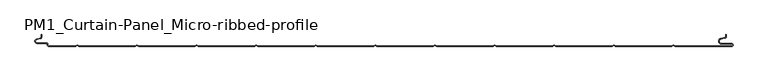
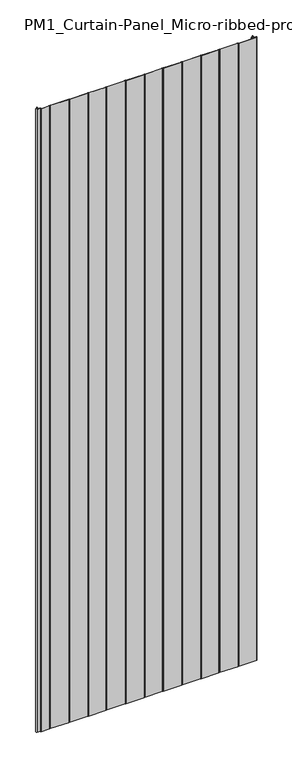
"""IFC4 building model written with IfcOpenShell, lengths in millimetres: plate geometry, PM1_Curtain-Panel_Micro-ribbed-profile : ACH_PM1_Acoustic-Sectioning-Panel_120M."""

from ifc_helpers import new_model, si_unit, frame, origin, place, context, project, spatial, polyline, circle_curve, source, transform, mapped, element, save
from ifc_brep_helpers import plane_surface, cylinder_surface, revolved_surface, advanced_brep


def pm1_curtain_panel_micro_ribbed_profile_e0073b67(model_context):
    return source(origin(), model_context, "Body", "AdvancedBrep", [
        advanced_brep(
        [(-575.0, -104.121443, 3500.0), (-576.5500978, -106.0701831, 3500.0), (-582.7098239, -107.492268, 3500.0), (-581.9, -114.6, 3500.0), (-566.4, -114.6, 3500.0), (-564.4, -116.6, 3500.0), (-564.4, -118.0, 3500.0), (-562.4, -120.0, 3500.0), (-517.0999995, -120.0, 3500.0), (-514.4, -118.4411545, 3500.0), (-511.7000005, -120.0, 3500.0), (-417.0999995, -120.0, 3500.0), (-414.4, -118.4411545, 3500.0), (-411.7000005, -120.0, 3500.0), (-317.0999995, -120.0, 3500.0), (-314.4, -118.4411545, 3500.0), (-311.7000005, -120.0, 3500.0), (-217.0999995, -120.0, 3500.0), (-214.4, -118.4411545, 3500.0), (-211.7000005, -120.0, 3500.0), (-117.0999995, -120.0, 3500.0), (-114.4, -118.4411545, 3500.0), (-111.7000005, -120.0, 3500.0), (-17.0999995, -120.0, 3500.0), (-14.4, -118.4411545, 3500.0), (-11.7000005, -120.0, 3500.0), (82.9000005, -120.0, 3500.0), (85.6, -118.4411545, 3500.0), (88.2999995, -120.0, 3500.0), (182.9000005, -120.0, 3500.0), (185.6, -118.4411545, 3500.0), (188.2999995, -120.0, 3500.0), (282.9000005, -120.0, 3500.0), (285.6, -118.4411545, 3500.0), (288.2999995, -120.0, 3500.0), (382.9000005, -120.0, 3500.0), (385.6, -118.4411545, 3500.0), (388.2999995, -120.0, 3500.0), (482.9000005, -120.0, 3500.0), (485.6, -118.4411545, 3500.0), (488.2999995, -120.0, 3500.0), (583.1, -120.0, 3500.0), (585.6, -117.5, 3500.0), (583.1, -115.0, 3500.0), (566.1, -115.0, 3500.0), (565.405407, -107.060769, 3500.0), (571.8514855, -105.9241509, 3500.0), (574.0, -103.3636508, 3500.0), (574.0, -100.0, 3500.0), (573.2, -100.0, 3500.0), (573.2, -103.3636508, 3500.0), (571.7125669, -105.1363047, 3500.0), (565.2664884, -106.2729228, 3500.0), (566.1, -115.8, 3500.0), (583.1, -115.8, 3500.0), (583.1, -119.2, 3500.0), (488.5143588, -119.2, 3500.0), (485.6, -117.517394, 3500.0), (482.6856412, -119.2, 3500.0), (388.5143588, -119.2, 3500.0), (385.6, -117.517394, 3500.0), (382.6856412, -119.2, 3500.0), (288.5143588, -119.2, 3500.0), (285.6, -117.517394, 3500.0), (282.6856412, -119.2, 3500.0), (188.5143588, -119.2, 3500.0), (185.6, -117.517394, 3500.0), (182.6856412, -119.2, 3500.0), (88.5143588, -119.2, 3500.0), (85.6, -117.517394, 3500.0), (82.6856412, -119.2, 3500.0), (-11.4856412, -119.2, 3500.0), (-14.4, -117.517394, 3500.0), (-17.3143588, -119.2, 3500.0), (-111.4856412, -119.2, 3500.0), (-114.4, -117.517394, 3500.0), (-117.3143588, -119.2, 3500.0), (-211.4856412, -119.2, 3500.0), (-214.4, -117.517394, 3500.0), (-217.3143588, -119.2, 3500.0), (-311.4856412, -119.2, 3500.0), (-314.4, -117.517394, 3500.0), (-317.3143588, -119.2, 3500.0), (-411.4856412, -119.2, 3500.0), (-414.4, -117.517394, 3500.0), (-417.3143588, -119.2, 3500.0), (-511.4856412, -119.2, 3500.0), (-514.4, -117.517394, 3500.0), (-517.3143588, -119.2, 3500.0), (-562.4, -119.2, 3500.0), (-563.6, -118.0, 3500.0), (-563.6, -116.6, 3500.0), (-566.4, -113.8, 3500.0), (-581.9, -113.8, 3500.0), (-582.529863, -108.2717638, 3500.0), (-576.370137, -106.849679, 3500.0), (-574.2, -104.121443, 3500.0), (-574.2, -100.0, 3500.0), (-575.0, -100.0, 3500.0), (-575.0, -104.121443, 0.0), (-575.0, -100.0, 0.0), (-574.2, -100.0, 0.0), (-574.2, -104.121443, 0.0), (-576.370137, -106.8496792, 0.0), (-582.529863, -108.271764, 0.0), (-581.9, -113.8, 0.0), (-566.4, -113.8, 0.0), (-563.6, -116.6, 0.0), (-563.6, -118.0, 0.0), (-562.4, -119.2, 0.0), (-517.3143588, -119.2, 0.0), (-514.4, -117.517394, 0.0), (-511.4856412, -119.2, 0.0), (-417.3143588, -119.2, 0.0), (-414.4, -117.517394, 0.0), (-411.4856412, -119.2, 0.0), (-317.3143588, -119.2, 0.0), (-314.4, -117.517394, 0.0), (-311.4856412, -119.2, 0.0), (-217.3143588, -119.2, 0.0), (-214.4, -117.517394, 0.0), (-211.4856412, -119.2, 0.0), (-117.3143588, -119.2, 0.0), (-114.4, -117.517394, 0.0), (-111.4856412, -119.2, 0.0), (-17.3143588, -119.2, 0.0), (-14.4, -117.517394, 0.0), (-11.4856412, -119.2, 0.0), (82.6856412, -119.2, 0.0), (85.6, -117.517394, 0.0), (88.5143588, -119.2, 0.0), (182.6856412, -119.2, 0.0), (185.6, -117.517394, 0.0), (188.5143588, -119.2, 0.0), (282.6856412, -119.2, 0.0), (285.6, -117.517394, 0.0), (288.5143588, -119.2, 0.0), (382.6856412, -119.2, 0.0), (385.6, -117.517394, 0.0), (388.5143588, -119.2, 0.0), (482.6856412, -119.2, 0.0), (485.6, -117.517394, 0.0), (488.5143588, -119.2, 0.0), (583.1, -119.2, 0.0), (583.1, -115.8, 0.0), (566.1, -115.8, 0.0), (565.2664884, -106.2729229, 0.0), (571.7125669, -105.1363047, 0.0), (573.2, -103.3636508, 0.0), (573.2, -100.0, 0.0), (574.0, -100.0, 0.0), (574.0, -103.3636508, 0.0), (571.8514855, -105.9241509, 0.0), (565.405407, -107.060769, 0.0), (566.1, -115.0, 0.0), (583.1, -115.0, 0.0), (585.6, -117.5, 0.0), (583.1, -120.0, 0.0), (488.2999995, -120.0, 0.0), (485.6, -118.4411545, 0.0), (482.9000005, -120.0, 0.0), (388.2999995, -120.0, 0.0), (385.6, -118.4411545, 0.0), (382.9000005, -120.0, 0.0), (288.2999995, -120.0, 0.0), (285.6, -118.4411545, 0.0), (282.9000005, -120.0, 0.0), (188.2999995, -120.0, 0.0), (185.6, -118.4411545, 0.0), (182.9000005, -120.0, 0.0), (88.2999995, -120.0, 0.0), (85.6, -118.4411545, 0.0), (82.9000005, -120.0, 0.0), (-11.7000005, -120.0, 0.0), (-14.4, -118.4411545, 0.0), (-17.0999995, -120.0, 0.0), (-111.7000005, -120.0, 0.0), (-114.4, -118.4411545, 0.0), (-117.0999995, -120.0, 0.0), (-211.7000005, -120.0, 0.0), (-214.4, -118.4411545, 0.0), (-217.0999995, -120.0, 0.0), (-311.7000005, -120.0, 0.0), (-314.4, -118.4411545, 0.0), (-317.0999995, -120.0, 0.0), (-411.7000005, -120.0, 0.0), (-414.4, -118.4411545, 0.0), (-417.0999995, -120.0, 0.0), (-511.7000005, -120.0, 0.0), (-514.4, -118.4411545, 0.0), (-517.0999995, -120.0, 0.0), (-562.4, -120.0, 0.0), (-564.4, -118.0, 0.0), (-564.4, -116.6, 0.0), (-566.4, -114.6, 0.0), (-581.9, -114.6, 0.0), (-582.7098239, -107.4922678, 0.0), (-576.5500979, -106.070183, 0.0)],
        [
            (0, 1, circle_curve(frame((-577.0, -104.121443, 3500.0), z_axis=(0.0, 0.0, -1.0), x_axis=(1.0, 0.0, 0.0)), 2.0)),
            (1, 2),
            (2, 3, circle_curve(frame((-581.9, -111.0, 3500.0), z_axis=(0.0, 0.0, 1.0), x_axis=(1.0, 0.0, 0.0)), 3.6)),
            (3, 4),
            (4, 5, circle_curve(frame((-566.4, -116.6, 3500.0), z_axis=(0.0, 0.0, -1.0), x_axis=(1.0, 0.0, 0.0)), 2.0)),
            (5, 6),
            (6, 7, circle_curve(frame((-562.4, -118.0, 3500.0), z_axis=(0.0, 0.0, 1.0), x_axis=(1.0, 0.0, 0.0)), 2.0)),
            (7, 8),
            (8, 9),
            (9, 10),
            (10, 11),
            (11, 12),
            (12, 13),
            (13, 14),
            (14, 15),
            (15, 16),
            (16, 17),
            (17, 18),
            (18, 19),
            (19, 20),
            (20, 21),
            (21, 22),
            (22, 23),
            (23, 24),
            (24, 25),
            (25, 26),
            (26, 27),
            (27, 28),
            (28, 29),
            (29, 30),
            (30, 31),
            (31, 32),
            (32, 33),
            (33, 34),
            (34, 35),
            (35, 36),
            (36, 37),
            (37, 38),
            (38, 39),
            (39, 40),
            (40, 41),
            (41, 42, circle_curve(frame((583.1, -117.5, 3500.0), z_axis=(0.0, 0.0, 1.0), x_axis=(1.0, 0.0, 0.0)), 2.5)),
            (42, 43, circle_curve(frame((583.1, -117.5, 3500.0), z_axis=(0.0, 0.0, 1.0), x_axis=(1.0, 0.0, 0.0)), 2.5)),
            (43, 44),
            (44, 45, circle_curve(frame((566.1, -111.0, 3500.0), z_axis=(0.0, 0.0, -1.0), x_axis=(1.0, 0.0, 0.0)), 4.0)),
            (45, 46),
            (46, 47, circle_curve(frame((571.4, -103.3636508, 3500.0), z_axis=(0.0, 0.0, 1.0), x_axis=(1.0, 0.0, 0.0)), 2.6)),
            (47, 48),
            (48, 49),
            (49, 50),
            (50, 51, circle_curve(frame((571.4, -103.3636508, 3500.0), z_axis=(0.0, 0.0, -1.0), x_axis=(1.0, 0.0, 0.0)), 1.8)),
            (51, 52),
            (52, 53, circle_curve(frame((566.1, -111.0, 3500.0), z_axis=(0.0, 0.0, 1.0), x_axis=(1.0, 0.0, 0.0)), 4.8)),
            (53, 54),
            (54, 55, circle_curve(frame((583.1, -117.5, 3500.0), z_axis=(0.0, 0.0, -1.0), x_axis=(1.0, 0.0, 0.0)), 1.7)),
            (55, 56),
            (56, 57),
            (57, 58),
            (58, 59),
            (59, 60),
            (60, 61),
            (61, 62),
            (62, 63),
            (63, 64),
            (64, 65),
            (65, 66),
            (66, 67),
            (67, 68),
            (68, 69),
            (69, 70),
            (70, 71),
            (71, 72),
            (72, 73),
            (73, 74),
            (74, 75),
            (75, 76),
            (76, 77),
            (77, 78),
            (78, 79),
            (79, 80),
            (80, 81),
            (81, 82),
            (82, 83),
            (83, 84),
            (84, 85),
            (85, 86),
            (86, 87),
            (87, 88),
            (88, 89),
            (89, 90, circle_curve(frame((-562.4, -118.0, 3500.0), z_axis=(0.0, 0.0, -1.0), x_axis=(1.0, 0.0, 0.0)), 1.2)),
            (90, 91),
            (91, 92, circle_curve(frame((-566.4, -116.6, 3500.0), z_axis=(0.0, 0.0, 1.0), x_axis=(1.0, 0.0, 0.0)), 2.8)),
            (92, 93),
            (93, 94, circle_curve(frame((-581.9, -111.0, 3500.0), z_axis=(0.0, 0.0, -1.0), x_axis=(1.0, 0.0, 0.0)), 2.8)),
            (94, 95),
            (95, 96, circle_curve(frame((-577.0, -104.121443, 3500.0), z_axis=(0.0, 0.0, 1.0), x_axis=(1.0, 0.0, 0.0)), 2.8)),
            (96, 97),
            (97, 98),
            (98, 0),
            (99, 100),
            (100, 101),
            (101, 102),
            (102, 103, circle_curve(frame((-577.0, -104.121443, 0.0), z_axis=(0.0, 0.0, -1.0), x_axis=(1.0, 0.0, 0.0)), 2.8)),
            (103, 104),
            (104, 105, circle_curve(frame((-581.9, -111.0, 0.0), z_axis=(0.0, 0.0, 1.0), x_axis=(1.0, 0.0, 0.0)), 2.8)),
            (105, 106),
            (106, 107, circle_curve(frame((-566.4, -116.6, 0.0), z_axis=(0.0, 0.0, -1.0), x_axis=(1.0, 0.0, 0.0)), 2.8)),
            (107, 108),
            (108, 109, circle_curve(frame((-562.4, -118.0, 0.0), z_axis=(0.0, 0.0, 1.0), x_axis=(1.0, 0.0, 0.0)), 1.2)),
            (109, 110),
            (110, 111),
            (111, 112),
            (112, 113),
            (113, 114),
            (114, 115),
            (115, 116),
            (116, 117),
            (117, 118),
            (118, 119),
            (119, 120),
            (120, 121),
            (121, 122),
            (122, 123),
            (123, 124),
            (124, 125),
            (125, 126),
            (126, 127),
            (127, 128),
            (128, 129),
            (129, 130),
            (130, 131),
            (131, 132),
            (132, 133),
            (133, 134),
            (134, 135),
            (135, 136),
            (136, 137),
            (137, 138),
            (138, 139),
            (139, 140),
            (140, 141),
            (141, 142),
            (142, 143),
            (143, 144, circle_curve(frame((583.1, -117.5, 0.0), z_axis=(0.0, 0.0, 1.0), x_axis=(1.0, 0.0, 0.0)), 1.7)),
            (144, 145),
            (145, 146, circle_curve(frame((566.1, -111.0, 0.0), z_axis=(0.0, 0.0, -1.0), x_axis=(1.0, 0.0, 0.0)), 4.8)),
            (146, 147),
            (147, 148, circle_curve(frame((571.4, -103.3636508, 0.0), z_axis=(0.0, 0.0, 1.0), x_axis=(1.0, 0.0, 0.0)), 1.8)),
            (148, 149),
            (149, 150),
            (150, 151),
            (151, 152, circle_curve(frame((571.4, -103.3636508, 0.0), z_axis=(0.0, 0.0, -1.0), x_axis=(1.0, 0.0, 0.0)), 2.6)),
            (152, 153),
            (153, 154, circle_curve(frame((566.1, -111.0, 0.0), z_axis=(0.0, 0.0, 1.0), x_axis=(1.0, 0.0, 0.0)), 4.0)),
            (154, 155),
            (155, 156, circle_curve(frame((583.1, -117.5, 0.0), z_axis=(0.0, 0.0, -1.0), x_axis=(1.0, 0.0, 0.0)), 2.5)),
            (156, 157, circle_curve(frame((583.1, -117.5, 0.0), z_axis=(0.0, 0.0, -1.0), x_axis=(1.0, 0.0, 0.0)), 2.5)),
            (157, 158),
            (158, 159),
            (159, 160),
            (160, 161),
            (161, 162),
            (162, 163),
            (163, 164),
            (164, 165),
            (165, 166),
            (166, 167),
            (167, 168),
            (168, 169),
            (169, 170),
            (170, 171),
            (171, 172),
            (172, 173),
            (173, 174),
            (174, 175),
            (175, 176),
            (176, 177),
            (177, 178),
            (178, 179),
            (179, 180),
            (180, 181),
            (181, 182),
            (182, 183),
            (183, 184),
            (184, 185),
            (185, 186),
            (186, 187),
            (187, 188),
            (188, 189),
            (189, 190),
            (190, 191),
            (191, 192, circle_curve(frame((-562.4, -118.0, 0.0), z_axis=(0.0, 0.0, -1.0), x_axis=(1.0, 0.0, 0.0)), 2.0)),
            (192, 193),
            (193, 194, circle_curve(frame((-566.4, -116.6, 0.0), z_axis=(0.0, 0.0, 1.0), x_axis=(1.0, 0.0, 0.0)), 2.0)),
            (194, 195),
            (195, 196, circle_curve(frame((-581.9, -111.0, 0.0), z_axis=(0.0, 0.0, -1.0), x_axis=(1.0, 0.0, 0.0)), 3.6)),
            (196, 197),
            (197, 99, circle_curve(frame((-577.0, -104.121443, 0.0), z_axis=(0.0, 0.0, 1.0), x_axis=(1.0, 0.0, 0.0)), 2.0)),
            (0, 99),
            (197, 1),
            (196, 2),
            (195, 3),
            (194, 4),
            (193, 5),
            (192, 6),
            (191, 7),
            (190, 8),
            (189, 9),
            (188, 10),
            (187, 11),
            (186, 12),
            (185, 13),
            (184, 14),
            (183, 15),
            (182, 16),
            (181, 17),
            (180, 18),
            (179, 19),
            (178, 20),
            (177, 21),
            (176, 22),
            (175, 23),
            (174, 24),
            (173, 25),
            (172, 26),
            (171, 27),
            (170, 28),
            (169, 29),
            (168, 30),
            (167, 31),
            (166, 32),
            (165, 33),
            (164, 34),
            (163, 35),
            (162, 36),
            (161, 37),
            (160, 38),
            (159, 39),
            (158, 40),
            (157, 41),
            (155, 43),
            (154, 44),
            (153, 45),
            (152, 46),
            (151, 47),
            (150, 48),
            (149, 49),
            (148, 50),
            (147, 51),
            (146, 52),
            (145, 53),
            (144, 54),
            (143, 55),
            (142, 56),
            (141, 57),
            (140, 58),
            (139, 59),
            (138, 60),
            (137, 61),
            (136, 62),
            (135, 63),
            (134, 64),
            (133, 65),
            (132, 66),
            (131, 67),
            (130, 68),
            (129, 69),
            (128, 70),
            (127, 71),
            (126, 72),
            (125, 73),
            (124, 74),
            (123, 75),
            (122, 76),
            (121, 77),
            (120, 78),
            (119, 79),
            (118, 80),
            (117, 81),
            (116, 82),
            (115, 83),
            (114, 84),
            (113, 85),
            (112, 86),
            (111, 87),
            (110, 88),
            (109, 89),
            (108, 90),
            (107, 91),
            (106, 92),
            (105, 93),
            (104, 94),
            (103, 95),
            (102, 96),
            (101, 97),
            (100, 98),
        ],
        [
            plane_surface(frame((-575.0, -120.0, 3500.0), z_axis=(0.0, 0.0, 1.0), x_axis=(0.0, 1.0, 0.0))),
            plane_surface(frame((-575.0, -120.0, 0.0), z_axis=(0.0, 0.0, -1.0), x_axis=(0.0, 1.0, 0.0))),
            revolved_surface(polyline([(-575.0, -104.121443, 0.0), (-575.0, -104.121443, 3500.0)]), (-577.0, -104.121443, 3500.0), (0.0, 0.0, -1.0)),
            plane_surface(frame((-576.5500979, -106.070183, 3500.0), z_axis=(-0.22495108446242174, 0.9743700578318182, 0.0), x_axis=(0.0, 0.0, -1.0))),
            cylinder_surface(frame((-581.9, -111.0, 3500.0), z_axis=(0.0, 0.0, 1.0), x_axis=(1.0, 0.0, 0.0)), 3.6),
            plane_surface(frame((-581.9, -114.6, 3500.0), z_axis=(0.0, -1.0, 0.0), x_axis=(0.0, 0.0, -1.0))),
            revolved_surface(polyline([(-564.4, -116.6, 0.0), (-564.4, -116.6, 3500.0)]), (-566.4, -116.6, 3500.0), (0.0, 0.0, -1.0)),
            plane_surface(frame((-564.4, -116.6, 3500.0), z_axis=(-1.0, 0.0, 0.0), x_axis=(0.0, 0.0, -1.0))),
            cylinder_surface(frame((-562.4, -118.0, 3500.0), z_axis=(0.0, 0.0, 1.0), x_axis=(1.0, 0.0, 0.0)), 2.0),
            plane_surface(frame((-562.4, -120.0, 3500.0), z_axis=(0.0, -1.0, 0.0), x_axis=(0.0, 0.0, -1.0))),
            plane_surface(frame((-517.0999995, -120.0, 3500.0), z_axis=(0.5000000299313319, -0.8660253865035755, 0.0), x_axis=(0.0, 0.0, -1.0))),
            plane_surface(frame((-514.4, -118.4411545, 3500.0), z_axis=(-0.5000000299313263, -0.8660253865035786, 0.0), x_axis=(0.0, 0.0, -1.0))),
            plane_surface(frame((-511.7000005, -120.0, 3500.0), z_axis=(0.0, -1.0, 0.0), x_axis=(0.0, 0.0, -1.0))),
            plane_surface(frame((-417.0999995, -120.0, 3500.0), z_axis=(0.5000000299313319, -0.8660253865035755, 0.0), x_axis=(0.0, 0.0, -1.0))),
            plane_surface(frame((-414.4, -118.4411545, 3500.0), z_axis=(-0.5000000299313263, -0.8660253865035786, 0.0), x_axis=(0.0, 0.0, -1.0))),
            plane_surface(frame((-411.7000005, -120.0, 3500.0), z_axis=(0.0, -1.0, 0.0), x_axis=(0.0, 0.0, -1.0))),
            plane_surface(frame((-317.0999995, -120.0, 3500.0), z_axis=(0.5000000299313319, -0.8660253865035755, 0.0), x_axis=(0.0, 0.0, -1.0))),
            plane_surface(frame((-314.4, -118.4411545, 3500.0), z_axis=(-0.5000000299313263, -0.8660253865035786, 0.0), x_axis=(0.0, 0.0, -1.0))),
            plane_surface(frame((-311.7000005, -120.0, 3500.0), z_axis=(0.0, -1.0, 0.0), x_axis=(0.0, 0.0, -1.0))),
            plane_surface(frame((-217.0999995, -120.0, 3500.0), z_axis=(0.5000000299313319, -0.8660253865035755, 0.0), x_axis=(0.0, 0.0, -1.0))),
            plane_surface(frame((-214.4, -118.4411545, 3500.0), z_axis=(-0.5000000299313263, -0.8660253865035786, 0.0), x_axis=(0.0, 0.0, -1.0))),
            plane_surface(frame((-211.7000005, -120.0, 3500.0), z_axis=(0.0, -1.0, 0.0), x_axis=(0.0, 0.0, -1.0))),
            plane_surface(frame((-117.0999995, -120.0, 3500.0), z_axis=(0.5000000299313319, -0.8660253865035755, 0.0), x_axis=(0.0, 0.0, -1.0))),
            plane_surface(frame((-114.4, -118.4411545, 3500.0), z_axis=(-0.5000000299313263, -0.8660253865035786, 0.0), x_axis=(0.0, 0.0, -1.0))),
            plane_surface(frame((-111.7000005, -120.0, 3500.0), z_axis=(0.0, -1.0, 0.0), x_axis=(0.0, 0.0, -1.0))),
            plane_surface(frame((-17.0999995, -120.0, 3500.0), z_axis=(0.5000000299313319, -0.8660253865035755, 0.0), x_axis=(0.0, 0.0, -1.0))),
            plane_surface(frame((-14.4, -118.4411545, 3500.0), z_axis=(-0.5000000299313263, -0.8660253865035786, 0.0), x_axis=(0.0, 0.0, -1.0))),
            plane_surface(frame((-11.7000005, -120.0, 3500.0), z_axis=(0.0, -1.0, 0.0), x_axis=(0.0, 0.0, -1.0))),
            plane_surface(frame((82.9000005, -120.0, 3500.0), z_axis=(0.5000000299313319, -0.8660253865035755, 0.0), x_axis=(0.0, 0.0, -1.0))),
            plane_surface(frame((85.6, -118.4411545, 3500.0), z_axis=(-0.5000000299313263, -0.8660253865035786, 0.0), x_axis=(0.0, 0.0, -1.0))),
            plane_surface(frame((88.2999995, -120.0, 3500.0), z_axis=(0.0, -1.0, 0.0), x_axis=(0.0, 0.0, -1.0))),
            plane_surface(frame((182.9000005, -120.0, 3500.0), z_axis=(0.5000000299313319, -0.8660253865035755, 0.0), x_axis=(0.0, 0.0, -1.0))),
            plane_surface(frame((185.6, -118.4411545, 3500.0), z_axis=(-0.5000000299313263, -0.8660253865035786, 0.0), x_axis=(0.0, 0.0, -1.0))),
            plane_surface(frame((188.2999995, -120.0, 3500.0), z_axis=(0.0, -1.0, 0.0), x_axis=(0.0, 0.0, -1.0))),
            plane_surface(frame((282.9000005, -120.0, 3500.0), z_axis=(0.5000000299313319, -0.8660253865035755, 0.0), x_axis=(0.0, 0.0, -1.0))),
            plane_surface(frame((285.6, -118.4411545, 3500.0), z_axis=(-0.5000000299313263, -0.8660253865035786, 0.0), x_axis=(0.0, 0.0, -1.0))),
            plane_surface(frame((288.2999995, -120.0, 3500.0), z_axis=(0.0, -1.0, 0.0), x_axis=(0.0, 0.0, -1.0))),
            plane_surface(frame((382.9000005, -120.0, 3500.0), z_axis=(0.5000000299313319, -0.8660253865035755, 0.0), x_axis=(0.0, 0.0, -1.0))),
            plane_surface(frame((385.6, -118.4411545, 3500.0), z_axis=(-0.5000000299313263, -0.8660253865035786, 0.0), x_axis=(0.0, 0.0, -1.0))),
            plane_surface(frame((388.2999995, -120.0, 3500.0), z_axis=(0.0, -1.0, 0.0), x_axis=(0.0, 0.0, -1.0))),
            plane_surface(frame((482.9000005, -120.0, 3500.0), z_axis=(0.5000000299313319, -0.8660253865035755, 0.0), x_axis=(0.0, 0.0, -1.0))),
            plane_surface(frame((485.6, -118.4411545, 3500.0), z_axis=(-0.5000000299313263, -0.8660253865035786, 0.0), x_axis=(0.0, 0.0, -1.0))),
            plane_surface(frame((535.6, -120.0, 3500.0), z_axis=(0.0, -1.0, 0.0), x_axis=(0.0, 0.0, -1.0))),
            cylinder_surface(frame((583.1, -117.5, 3500.0), z_axis=(0.0, 0.0, 1.0), x_axis=(1.0, 0.0, 0.0)), 2.5),
            plane_surface(frame((583.1, -115.0, 3500.0), z_axis=(0.0, 1.0, 0.0), x_axis=(0.0, 0.0, -1.0))),
            revolved_surface(polyline([(570.1, -111.0, 0.0), (570.1, -111.0, 3500.0)]), (566.1, -111.0, 3500.0), (0.0, 0.0, -1.0)),
            plane_surface(frame((565.405407, -107.060769, 3500.0), z_axis=(0.17364825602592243, -0.9848077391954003, 0.0), x_axis=(0.0, 0.0, -1.0))),
            cylinder_surface(frame((571.4, -103.3636508, 3500.0), z_axis=(0.0, 0.0, 1.0), x_axis=(1.0, 0.0, 0.0)), 2.6),
            plane_surface(frame((574.0, -103.3636508, 3500.0), z_axis=(1.0, 0.0, 0.0), x_axis=(0.0, 0.0, -1.0))),
            plane_surface(frame((574.0, -100.0, 3500.0), z_axis=(0.0, 1.0, 0.0), x_axis=(0.0, 0.0, -1.0))),
            plane_surface(frame((573.2, -100.0, 3500.0), z_axis=(-1.0, 0.0, 0.0), x_axis=(0.0, 0.0, -1.0))),
            revolved_surface(polyline([(573.1999999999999, -103.3636508, 0.0), (573.1999999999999, -103.3636508, 3500.0)]), (571.4, -103.3636508, 3500.0), (0.0, 0.0, -1.0)),
            plane_surface(frame((571.7125669, -105.1363047, 3500.0), z_axis=(-0.17364825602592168, 0.9848077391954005, 0.0), x_axis=(0.0, 0.0, -1.0))),
            cylinder_surface(frame((566.1, -111.0, 3500.0), z_axis=(0.0, 0.0, 1.0), x_axis=(1.0, 0.0, 0.0)), 4.8),
            plane_surface(frame((566.1, -115.8, 3500.0), z_axis=(0.0, -1.0, 0.0), x_axis=(0.0, 0.0, -1.0))),
            revolved_surface(polyline([(584.8000000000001, -117.5, 0.0), (584.8000000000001, -117.5, 3500.0)]), (583.1, -117.5, 3500.0), (0.0, 0.0, -1.0)),
            plane_surface(frame((535.6, -119.2, 3500.0), z_axis=(0.0, 1.0, 0.0), x_axis=(0.0, 0.0, -1.0))),
            plane_surface(frame((488.5143588, -119.2, 3500.0), z_axis=(0.5000000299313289, 0.8660253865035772, 0.0), x_axis=(0.0, 0.0, -1.0))),
            plane_surface(frame((485.6, -117.517394, 3500.0), z_axis=(-0.5000000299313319, 0.8660253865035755, 0.0), x_axis=(0.0, 0.0, -1.0))),
            plane_surface(frame((482.6856412, -119.2, 3500.0), z_axis=(0.0, 1.0, 0.0), x_axis=(0.0, 0.0, -1.0))),
            plane_surface(frame((388.5143588, -119.2, 3500.0), z_axis=(0.5000000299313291, 0.8660253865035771, 0.0), x_axis=(0.0, 0.0, -1.0))),
            plane_surface(frame((385.6, -117.517394, 3500.0), z_axis=(-0.500000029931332, 0.8660253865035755, 0.0), x_axis=(0.0, 0.0, -1.0))),
            plane_surface(frame((382.6856412, -119.2, 3500.0), z_axis=(0.0, 1.0, 0.0), x_axis=(0.0, 0.0, -1.0))),
            plane_surface(frame((288.5143588, -119.2, 3500.0), z_axis=(0.5000000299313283, 0.8660253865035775, 0.0), x_axis=(0.0, 0.0, -1.0))),
            plane_surface(frame((285.6, -117.517394, 3500.0), z_axis=(-0.5000000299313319, 0.8660253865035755, 0.0), x_axis=(0.0, 0.0, -1.0))),
            plane_surface(frame((282.6856412, -119.2, 3500.0), z_axis=(0.0, 1.0, 0.0), x_axis=(0.0, 0.0, -1.0))),
            plane_surface(frame((188.5143588, -119.2, 3500.0), z_axis=(0.5000000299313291, 0.8660253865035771, 0.0), x_axis=(0.0, 0.0, -1.0))),
            plane_surface(frame((185.6, -117.517394, 3500.0), z_axis=(-0.5000000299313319, 0.8660253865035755, 0.0), x_axis=(0.0, 0.0, -1.0))),
            plane_surface(frame((182.6856412, -119.2, 3500.0), z_axis=(0.0, 1.0, 0.0), x_axis=(0.0, 0.0, -1.0))),
            plane_surface(frame((88.5143588, -119.2, 3500.0), z_axis=(0.5000000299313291, 0.8660253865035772, 0.0), x_axis=(0.0, 0.0, -1.0))),
            plane_surface(frame((85.6, -117.517394, 3500.0), z_axis=(-0.5000000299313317, 0.8660253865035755, 0.0), x_axis=(0.0, 0.0, -1.0))),
            plane_surface(frame((82.6856412, -119.2, 3500.0), z_axis=(0.0, 1.0, 0.0), x_axis=(0.0, 0.0, -1.0))),
            plane_surface(frame((-11.4856412, -119.2, 3500.0), z_axis=(0.500000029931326, 0.8660253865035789, 0.0), x_axis=(0.0, 0.0, -1.0))),
            plane_surface(frame((-14.4, -117.517394, 3500.0), z_axis=(-0.500000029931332, 0.8660253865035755, 0.0), x_axis=(0.0, 0.0, -1.0))),
            plane_surface(frame((-17.3143588, -119.2, 3500.0), z_axis=(0.0, 1.0, 0.0), x_axis=(0.0, 0.0, -1.0))),
            plane_surface(frame((-111.4856412, -119.2, 3500.0), z_axis=(0.5000000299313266, 0.8660253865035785, 0.0), x_axis=(0.0, 0.0, -1.0))),
            plane_surface(frame((-114.4, -117.517394, 3500.0), z_axis=(-0.5000000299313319, 0.8660253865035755, 0.0), x_axis=(0.0, 0.0, -1.0))),
            plane_surface(frame((-117.3143588, -119.2, 3500.0), z_axis=(0.0, 1.0, 0.0), x_axis=(0.0, 0.0, -1.0))),
            plane_surface(frame((-211.4856412, -119.2, 3500.0), z_axis=(0.5000000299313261, 0.8660253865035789, 0.0), x_axis=(0.0, 0.0, -1.0))),
            plane_surface(frame((-214.4, -117.517394, 3500.0), z_axis=(-0.500000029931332, 0.8660253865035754, 0.0), x_axis=(0.0, 0.0, -1.0))),
            plane_surface(frame((-217.3143588, -119.2, 3500.0), z_axis=(0.0, 1.0, 0.0), x_axis=(0.0, 0.0, -1.0))),
            plane_surface(frame((-311.4856412, -119.2, 3500.0), z_axis=(0.5000000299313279, 0.8660253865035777, 0.0), x_axis=(0.0, 0.0, -1.0))),
            plane_surface(frame((-314.4, -117.517394, 3500.0), z_axis=(-0.5000000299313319, 0.8660253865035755, 0.0), x_axis=(0.0, 0.0, -1.0))),
            plane_surface(frame((-317.3143588, -119.2, 3500.0), z_axis=(0.0, 1.0, 0.0), x_axis=(0.0, 0.0, -1.0))),
            plane_surface(frame((-411.4856412, -119.2, 3500.0), z_axis=(0.5000000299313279, 0.8660253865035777, 0.0), x_axis=(0.0, 0.0, -1.0))),
            plane_surface(frame((-414.4, -117.517394, 3500.0), z_axis=(-0.5000000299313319, 0.8660253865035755, 0.0), x_axis=(0.0, 0.0, -1.0))),
            plane_surface(frame((-417.3143588, -119.2, 3500.0), z_axis=(0.0, 1.0, 0.0), x_axis=(0.0, 0.0, -1.0))),
            plane_surface(frame((-511.4856412, -119.2, 3500.0), z_axis=(0.5000000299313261, 0.8660253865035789, 0.0), x_axis=(0.0, 0.0, -1.0))),
            plane_surface(frame((-514.4, -117.517394, 3500.0), z_axis=(-0.5000000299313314, 0.8660253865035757, 0.0), x_axis=(0.0, 0.0, -1.0))),
            plane_surface(frame((-517.3143588, -119.2, 3500.0), z_axis=(0.0, 1.0, 0.0), x_axis=(0.0, 0.0, -1.0))),
            revolved_surface(polyline([(-561.1999999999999, -118.0, 0.0), (-561.1999999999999, -118.0, 3500.0)]), (-562.4, -118.0, 3500.0), (0.0, 0.0, -1.0)),
            plane_surface(frame((-563.6, -118.0, 3500.0), z_axis=(1.0, 0.0, 0.0), x_axis=(0.0, 0.0, -1.0))),
            cylinder_surface(frame((-566.4, -116.6, 3500.0), z_axis=(0.0, 0.0, 1.0), x_axis=(1.0, 0.0, 0.0)), 2.8),
            plane_surface(frame((-566.4, -113.8, 3500.0), z_axis=(0.0, 1.0, 0.0), x_axis=(0.0, 0.0, -1.0))),
            revolved_surface(polyline([(-579.1, -111.0, 0.0), (-579.1, -111.0, 3500.0)]), (-581.9, -111.0, 3500.0), (0.0, 0.0, -1.0)),
            plane_surface(frame((-582.529863, -108.271764, 3500.0), z_axis=(0.22495108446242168, -0.9743700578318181, 0.0), x_axis=(0.0, 0.0, -1.0))),
            cylinder_surface(frame((-577.0, -104.121443, 3500.0), z_axis=(0.0, 0.0, 1.0), x_axis=(1.0, 0.0, 0.0)), 2.8),
            plane_surface(frame((-574.2, -104.121443, 3500.0), z_axis=(1.0, 0.0, 0.0), x_axis=(0.0, 0.0, -1.0))),
            plane_surface(frame((-574.2, -100.0, 3500.0), z_axis=(0.0, 1.0, 0.0), x_axis=(0.0, 0.0, -1.0))),
            plane_surface(frame((-575.0, -100.0, 3500.0), z_axis=(-1.0, 0.0, 0.0), x_axis=(0.0, 0.0, -1.0))),
        ],
        [
            (0, [[1, 2, 3, 4, 5, 6, 7, 8, 9, 10, 11, 12, 13, 14, 15, 16, 17, 18, 19, 20, 21, 22, 23, 24, 25, 26, 27, 28, 29, 30, 31, 32, 33, 34, 35, 36, 37, 38, 39, 40, 41, 42, 43, 44, 45, 46, 47, 48, 49, 50, 51, 52, 53, 54, 55, 56, 57, 58, 59, 60, 61, 62, 63, 64, 65, 66, 67, 68, 69, 70, 71, 72, 73, 74, 75, 76, 77, 78, 79, 80, 81, 82, 83, 84, 85, 86, 87, 88, 89, 90, 91, 92, 93, 94, 95, 96, 97, 98, 99]]),
            (1, [[100, 101, 102, 103, 104, 105, 106, 107, 108, 109, 110, 111, 112, 113, 114, 115, 116, 117, 118, 119, 120, 121, 122, 123, 124, 125, 126, 127, 128, 129, 130, 131, 132, 133, 134, 135, 136, 137, 138, 139, 140, 141, 142, 143, 144, 145, 146, 147, 148, 149, 150, 151, 152, 153, 154, 155, 156, 157, 158, 159, 160, 161, 162, 163, 164, 165, 166, 167, 168, 169, 170, 171, 172, 173, 174, 175, 176, 177, 178, 179, 180, 181, 182, 183, 184, 185, 186, 187, 188, 189, 190, 191, 192, 193, 194, 195, 196, 197, 198]]),
            (2, [[-1, 199, -198, 200]]),
            (3, [[-2, -200, -197, 201]]),
            (4, [[-3, -201, -196, 202]]),
            (5, [[-4, -202, -195, 203]]),
            (6, [[-5, -203, -194, 204]]),
            (7, [[-6, -204, -193, 205]]),
            (8, [[-7, -205, -192, 206]]),
            (9, [[-8, -206, -191, 207]]),
            (10, [[-9, -207, -190, 208]]),
            (11, [[-10, -208, -189, 209]]),
            (12, [[-11, -209, -188, 210]]),
            (13, [[-12, -210, -187, 211]]),
            (14, [[-13, -211, -186, 212]]),
            (15, [[-14, -212, -185, 213]]),
            (16, [[-15, -213, -184, 214]]),
            (17, [[-16, -214, -183, 215]]),
            (18, [[-17, -215, -182, 216]]),
            (19, [[-18, -216, -181, 217]]),
            (20, [[-19, -217, -180, 218]]),
            (21, [[-20, -218, -179, 219]]),
            (22, [[-21, -219, -178, 220]]),
            (23, [[-22, -220, -177, 221]]),
            (24, [[-23, -221, -176, 222]]),
            (25, [[-24, -222, -175, 223]]),
            (26, [[-25, -223, -174, 224]]),
            (27, [[-26, -224, -173, 225]]),
            (28, [[-27, -225, -172, 226]]),
            (29, [[-28, -226, -171, 227]]),
            (30, [[-29, -227, -170, 228]]),
            (31, [[-30, -228, -169, 229]]),
            (32, [[-31, -229, -168, 230]]),
            (33, [[-32, -230, -167, 231]]),
            (34, [[-33, -231, -166, 232]]),
            (35, [[-34, -232, -165, 233]]),
            (36, [[-35, -233, -164, 234]]),
            (37, [[-36, -234, -163, 235]]),
            (38, [[-37, -235, -162, 236]]),
            (39, [[-38, -236, -161, 237]]),
            (40, [[-39, -237, -160, 238]]),
            (41, [[-40, -238, -159, 239]]),
            (42, [[-41, -239, -158, 240]]),
            (43, [[-240, -157, -156, 241, -43, -42]]),
            (44, [[-44, -241, -155, 242]]),
            (45, [[-45, -242, -154, 243]]),
            (46, [[-46, -243, -153, 244]]),
            (47, [[-47, -244, -152, 245]]),
            (48, [[-48, -245, -151, 246]]),
            (49, [[-49, -246, -150, 247]]),
            (50, [[-50, -247, -149, 248]]),
            (51, [[-51, -248, -148, 249]]),
            (52, [[-52, -249, -147, 250]]),
            (53, [[-53, -250, -146, 251]]),
            (54, [[-54, -251, -145, 252]]),
            (55, [[-55, -252, -144, 253]]),
            (56, [[-56, -253, -143, 254]]),
            (57, [[-57, -254, -142, 255]]),
            (58, [[-58, -255, -141, 256]]),
            (59, [[-59, -256, -140, 257]]),
            (60, [[-60, -257, -139, 258]]),
            (61, [[-61, -258, -138, 259]]),
            (62, [[-62, -259, -137, 260]]),
            (63, [[-63, -260, -136, 261]]),
            (64, [[-64, -261, -135, 262]]),
            (65, [[-65, -262, -134, 263]]),
            (66, [[-66, -263, -133, 264]]),
            (67, [[-67, -264, -132, 265]]),
            (68, [[-68, -265, -131, 266]]),
            (69, [[-69, -266, -130, 267]]),
            (70, [[-70, -267, -129, 268]]),
            (71, [[-71, -268, -128, 269]]),
            (72, [[-72, -269, -127, 270]]),
            (73, [[-73, -270, -126, 271]]),
            (74, [[-74, -271, -125, 272]]),
            (75, [[-75, -272, -124, 273]]),
            (76, [[-76, -273, -123, 274]]),
            (77, [[-77, -274, -122, 275]]),
            (78, [[-78, -275, -121, 276]]),
            (79, [[-79, -276, -120, 277]]),
            (80, [[-80, -277, -119, 278]]),
            (81, [[-81, -278, -118, 279]]),
            (82, [[-82, -279, -117, 280]]),
            (83, [[-83, -280, -116, 281]]),
            (84, [[-84, -281, -115, 282]]),
            (85, [[-85, -282, -114, 283]]),
            (86, [[-86, -283, -113, 284]]),
            (87, [[-87, -284, -112, 285]]),
            (88, [[-88, -285, -111, 286]]),
            (89, [[-89, -286, -110, 287]]),
            (90, [[-90, -287, -109, 288]]),
            (91, [[-91, -288, -108, 289]]),
            (92, [[-92, -289, -107, 290]]),
            (93, [[-93, -290, -106, 291]]),
            (94, [[-94, -291, -105, 292]]),
            (95, [[-95, -292, -104, 293]]),
            (96, [[-96, -293, -103, 294]]),
            (97, [[-97, -294, -102, 295]]),
            (98, [[-98, -295, -101, 296]]),
            (99, [[-99, -296, -100, -199]]),
        ],
    ),
    ])


if __name__ == "__main__":
    model = new_model("IFC4")
    model_context = context("Model", 3, world=origin())
    ifc_project = project(units=[si_unit("LENGTHUNIT", "METRE", prefix="MILLI")], contexts=[model_context])
    site = spatial("IfcSite", under=ifc_project)
    building = spatial("IfcBuilding", under=site)
    placement = place(None, origin())
    pm1_curtain_panel_micro_ribbed_profile_shape = pm1_curtain_panel_micro_ribbed_profile_e0073b67(model_context)
    element("IfcPlate", 1, ObjectType="PM1_Curtain-Panel_Micro-ribbed-profile : ACH_PM1_Acoustic-Sectioning-Panel_120M", at=placement, inside=building, context=model_context, shape_type="MappedRepresentation", body=[
        mapped(pm1_curtain_panel_micro_ribbed_profile_shape, transform((0.0, 0.0, 0.0), x_axis=(1.0, 0.0, 0.0), y_axis=(0.0, 1.0, 0.0), z_axis=(0.0, 0.0, 1.0))),
    ])
    save(model, "model.ifc")
